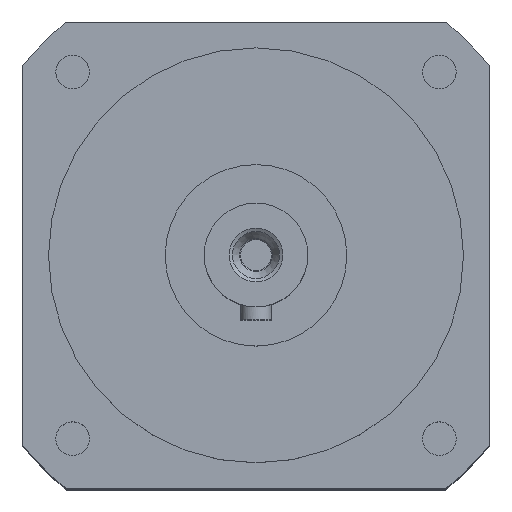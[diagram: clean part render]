
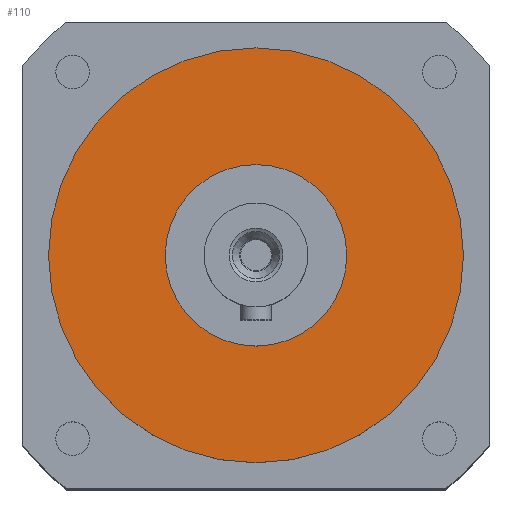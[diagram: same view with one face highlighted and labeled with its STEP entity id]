
A CAD part, top view. The second image highlights one B-rep face of the part: STEP entity #110.
In plain terms, the highlighted planar face has unit normal (0, 0, 1).
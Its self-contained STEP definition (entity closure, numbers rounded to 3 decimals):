
#110=ADVANCED_FACE('',(#814,#815),#828,.F.);
#800=EDGE_CURVE('',#806,#806,#801,.T.);
#801=CIRCLE('',#802,40.);
#802=AXIS2_PLACEMENT_3D('',#803,#804,#805);
#803=CARTESIAN_POINT('',(0.,0.,142.5));
#804=DIRECTION('',(0.,0.,-1.));
#805=DIRECTION('',(0.,-1.,0.));
#806=VERTEX_POINT('',#807);
#807=CARTESIAN_POINT('',(0.,-40.,142.5));
#814=FACE_OUTER_BOUND('',#816,.T.);
#815=FACE_BOUND('',#817,.T.);
#816=EDGE_LOOP('',(#818));
#817=EDGE_LOOP('',(#827));
#818=ORIENTED_EDGE('',*,*,#819,.T.);
#819=EDGE_CURVE('',#825,#825,#820,.T.);
#820=CIRCLE('',#821,17.5);
#821=AXIS2_PLACEMENT_3D('',#822,#823,#824);
#822=CARTESIAN_POINT('',(0.,0.,142.5));
#823=DIRECTION('',(0.,0.,-1.));
#824=DIRECTION('',(0.,-1.,0.));
#825=VERTEX_POINT('',#826);
#826=CARTESIAN_POINT('',(0.,-17.5,142.5));
#827=ORIENTED_EDGE('',*,*,#800,.F.);
#828=PLANE('',#829);
#829=AXIS2_PLACEMENT_3D('',#830,#831,#832);
#830=CARTESIAN_POINT('',(0.,0.,142.5));
#831=DIRECTION('',(0.,0.,-1.));
#832=DIRECTION('',(-1.,0.,0.));
